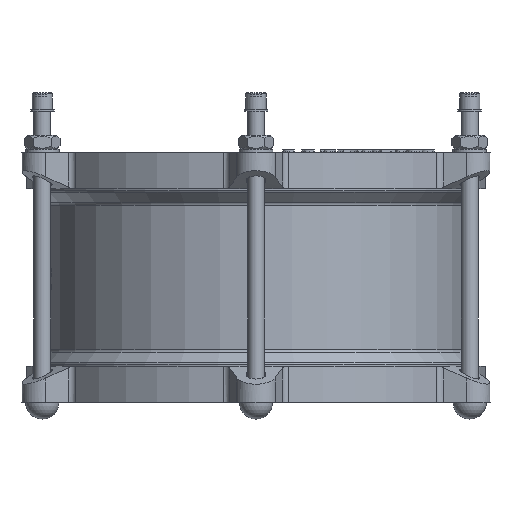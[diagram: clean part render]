
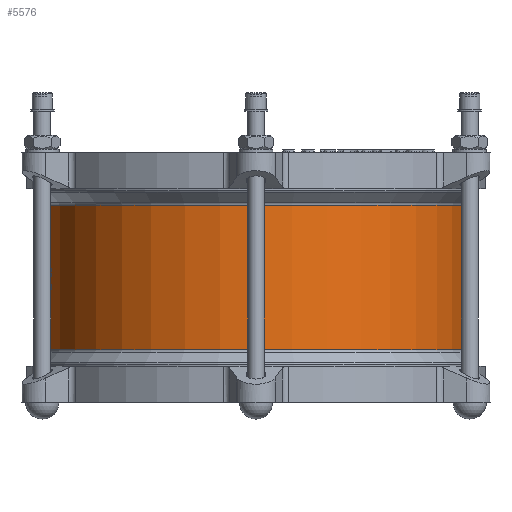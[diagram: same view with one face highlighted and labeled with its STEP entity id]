
A CAD part, left-side view. The second image highlights one B-rep face of the part: STEP entity #5576.
In plain terms, the highlighted cylindrical face has radius 149.5 mm (diameter 299 mm), a full revolution.
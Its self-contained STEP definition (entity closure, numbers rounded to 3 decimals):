
#5576=ADVANCED_FACE('',(#10355,#10357),#10359,.T.);
#10355=FACE_OUTER_BOUND('',#10356,.T.);
#10356=EDGE_LOOP('',(#15421));
#10357=FACE_OUTER_BOUND('',#10358,.T.);
#10358=EDGE_LOOP('',(#15422));
#10359=CYLINDRICAL_SURFACE('',#10360,149.5);
#10360=AXIS2_PLACEMENT_3D('',#10361,#10362,#10363);
#10361=CARTESIAN_POINT('',(0.,0.,52.714));
#10362=DIRECTION('',(0.,0.,-1.));
#10363=DIRECTION('',(0.,1.,0.));
#15421=ORIENTED_EDGE('',*,*,#17586,.T.);
#15422=ORIENTED_EDGE('',*,*,#17587,.F.);
#17586=EDGE_CURVE('',#20543,#20543,#20544,.T.);
#17587=EDGE_CURVE('',#20545,#20545,#20546,.T.);
#20543=VERTEX_POINT('',#30583);
#20544=CIRCLE('',#30584,149.5);
#20545=VERTEX_POINT('',#30588);
#20546=CIRCLE('',#30589,149.5);
#30583=CARTESIAN_POINT('',(0.,149.5,51.679));
#30584=AXIS2_PLACEMENT_3D('',#30585,#30586,#30587);
#30585=CARTESIAN_POINT('',(0.,0.,51.679));
#30586=DIRECTION('',(0.,0.,-1.));
#30587=DIRECTION('',(0.,1.,0.));
#30588=CARTESIAN_POINT('',(0.,149.5,-51.679));
#30589=AXIS2_PLACEMENT_3D('',#30590,#30591,#30592);
#30590=CARTESIAN_POINT('',(0.,0.,-51.679));
#30591=DIRECTION('',(0.,0.,-1.));
#30592=DIRECTION('',(0.,1.,0.));
